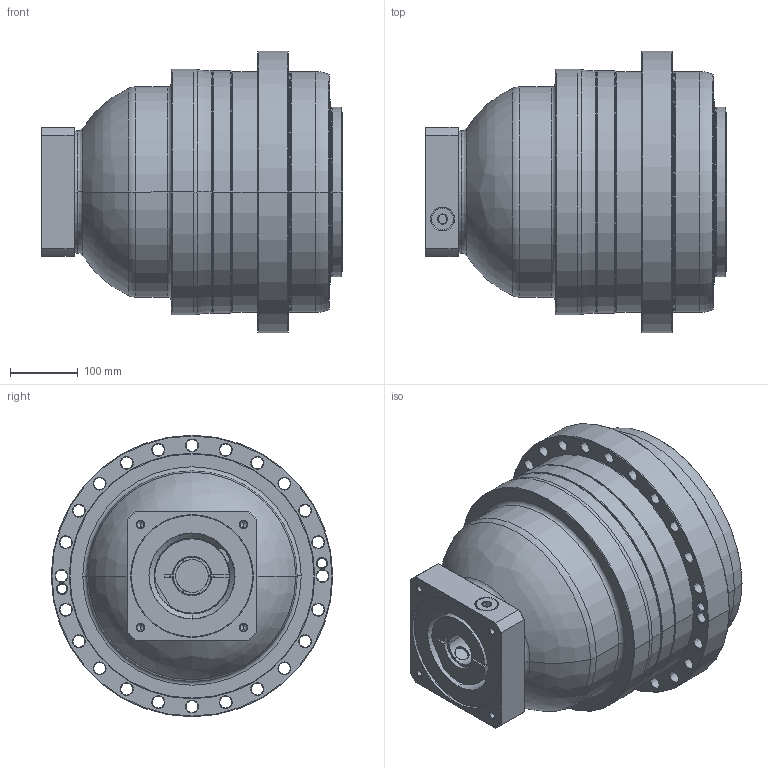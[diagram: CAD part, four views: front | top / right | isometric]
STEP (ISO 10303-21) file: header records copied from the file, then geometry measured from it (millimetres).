
FILE_DESCRIPTION((''),'2;1');
FILE_NAME('AP355_3ST_48-P0409B10201_ASM','2018-06-08T',('d01226'),(''),'PRO/ENGINEER BY PARAMETRIC TECHNOLOGY CORPORATION, 2008410','PRO/ENGINEER BY PARAMETRIC TECHNOLOGY CORPORATION, 2008410','');
FILE_SCHEMA(('CONFIG_CONTROL_DESIGN'));
Length unit declared in the file: millimetre
Products named in the file (9): P0276101003; P0357101103; P1366900401; P0503B00016; P0912654001; P1222100001; P0409B10201; 21711426021; AP355_3ST_48-P0409B10201_ASM
Assembly tree (8 placements, depth 2):
  AP355_3ST_48-P0409B10201_ASM
    P0276101003
    P0357101103
    P1366900401
    P0503B00016
    P0912654001
    P1222100001
    P0409B10201
    21711426021
Bounding box: 444.5 x 415 x 415 mm (x, y, z)
Volume: 29420090.8 mm3; surface area: 1421220.3 mm2
Topology: 9 solids, 34 shells, 644 faces, 1497 edges, 920 vertices
Faces by surface type: cylinder 269, cone 174, plane 105, torus 82, bspline 14
Entity records: 23588 total; most frequent: CARTESIAN_POINT 8086, DIRECTION 3569, ORIENTED_EDGE 2878, AXIS2_PLACEMENT_3D 1531, EDGE_CURVE 1489, VERTEX_POINT 920, CIRCLE 874, EDGE_LOOP 801
